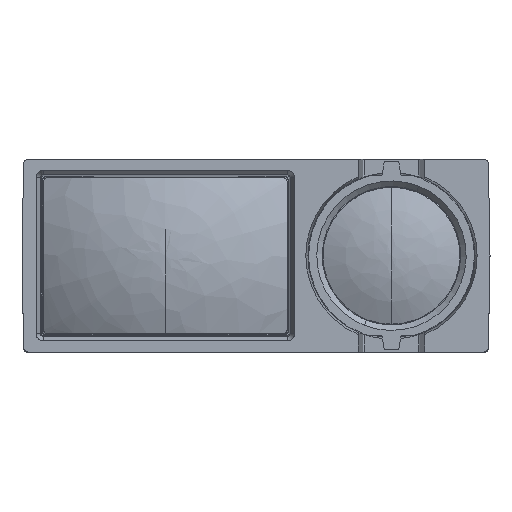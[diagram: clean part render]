
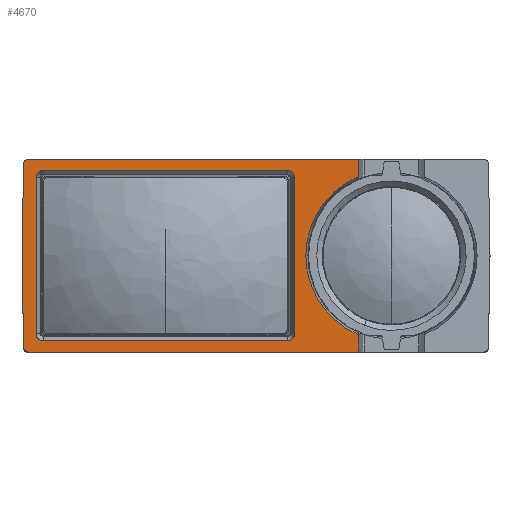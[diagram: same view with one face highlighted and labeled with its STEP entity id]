
A CAD part, top view. The second image highlights one B-rep face of the part: STEP entity #4670.
In plain terms, the highlighted planar face has unit normal (0, 0, 1).
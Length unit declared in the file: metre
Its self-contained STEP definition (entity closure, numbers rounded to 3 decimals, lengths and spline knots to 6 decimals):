
#117=DIRECTION('',(-1.,0.,0.));
#118=VECTOR('',#117,0.008916);
#119=CARTESIAN_POINT('',(0.004458,-0.003116,0.003));
#120=LINE('',#119,#118);
#125=DIRECTION('',(0.,-1.,0.));
#126=VECTOR('',#125,0.000643);
#127=CARTESIAN_POINT('',(0.007055,0.00353,0.003));
#128=LINE('',#127,#126);
#129=CARTESIAN_POINT('',(0.008265,0.,0.003));
#130=DIRECTION('',(0.,0.,1.));
#131=DIRECTION('',(-0.387,0.922,0.));
#132=AXIS2_PLACEMENT_3D('',#129,#130,#131);
#134=DIRECTION('',(0.,-1.,0.));
#135=VECTOR('',#134,0.000643);
#136=CARTESIAN_POINT('',(0.007055,-0.002887,0.003));
#137=LINE('',#136,#135);
#138=DIRECTION('',(-1.,0.,0.));
#139=VECTOR('',#138,0.012032);
#140=CARTESIAN_POINT('',(0.007055,-0.00353,0.003));
#141=LINE('',#140,#139);
#142=CARTESIAN_POINT('',(-0.004977,-0.00333,0.003));
#143=DIRECTION('',(0.,0.,-1.));
#144=DIRECTION('',(0.,-1.,0.));
#145=AXIS2_PLACEMENT_3D('',#142,#143,#144);
#147=DIRECTION('',(-0.017,1.,0.));
#148=VECTOR('',#147,0.003334);
#149=CARTESIAN_POINT('',(-0.005177,-0.003333,0.003));
#150=LINE('',#149,#148);
#151=DIRECTION('',(0.017,1.,0.));
#152=VECTOR('',#151,0.003334);
#153=CARTESIAN_POINT('',(-0.005235,0.,0.003));
#154=LINE('',#153,#152);
#155=CARTESIAN_POINT('',(-0.004977,0.00333,0.003));
#156=DIRECTION('',(0.,0.,-1.));
#157=DIRECTION('',(-1.,0.017,0.));
#158=AXIS2_PLACEMENT_3D('',#155,#156,#157);
#160=DIRECTION('',(1.,0.,0.));
#161=VECTOR('',#160,0.012032);
#162=CARTESIAN_POINT('',(-0.004977,0.00353,0.003));
#163=LINE('',#162,#161);
#164=CARTESIAN_POINT('',(0.004458,-0.003116,0.003));
#165=CARTESIAN_POINT('',(0.004484,-0.003117,0.003));
#166=CARTESIAN_POINT('',(0.004534,-0.00311,0.003));
#167=CARTESIAN_POINT('',(0.004613,-0.003071,0.003));
#168=CARTESIAN_POINT('',(0.004674,-0.003011,0.003));
#169=CARTESIAN_POINT('',(0.004715,-0.002932,0.003));
#170=CARTESIAN_POINT('',(0.004722,-0.00288,0.003));
#171=CARTESIAN_POINT('',(0.004721,-0.002853,0.003));
#173=DIRECTION('',(0.,1.,0.));
#174=VECTOR('',#173,0.005706);
#175=CARTESIAN_POINT('',(0.004721,-0.002853,0.003));
#176=LINE('',#175,#174);
#177=CARTESIAN_POINT('',(0.004721,0.002853,0.003));
#178=CARTESIAN_POINT('',(0.004722,0.002879,0.003));
#179=CARTESIAN_POINT('',(0.004715,0.002929,0.003));
#180=CARTESIAN_POINT('',(0.004676,0.003008,0.003));
#181=CARTESIAN_POINT('',(0.004616,0.003069,0.003));
#182=CARTESIAN_POINT('',(0.004537,0.00311,0.003));
#183=CARTESIAN_POINT('',(0.004485,0.003117,0.003));
#184=CARTESIAN_POINT('',(0.004458,0.003116,0.003));
#186=DIRECTION('',(-1.,0.,0.));
#187=VECTOR('',#186,0.008916);
#188=CARTESIAN_POINT('',(0.004458,0.003116,0.003));
#189=LINE('',#188,#187);
#190=CARTESIAN_POINT('',(-0.004458,0.003116,0.003));
#191=CARTESIAN_POINT('',(-0.004484,0.003117,0.003));
#192=CARTESIAN_POINT('',(-0.004534,0.00311,0.003));
#193=CARTESIAN_POINT('',(-0.004613,0.003071,0.003));
#194=CARTESIAN_POINT('',(-0.004674,0.003011,0.003));
#195=CARTESIAN_POINT('',(-0.004715,0.002932,0.003));
#196=CARTESIAN_POINT('',(-0.004722,0.00288,0.003));
#197=CARTESIAN_POINT('',(-0.004721,0.002853,0.003));
#199=DIRECTION('',(0.,-1.,0.));
#200=VECTOR('',#199,0.005706);
#201=CARTESIAN_POINT('',(-0.004721,0.002853,0.003));
#202=LINE('',#201,#200);
#203=CARTESIAN_POINT('',(-0.004721,-0.002853,0.003));
#204=CARTESIAN_POINT('',(-0.004722,-0.002879,0.003));
#205=CARTESIAN_POINT('',(-0.004715,-0.002929,0.003));
#206=CARTESIAN_POINT('',(-0.004676,-0.003008,0.003));
#207=CARTESIAN_POINT('',(-0.004616,-0.003069,0.003));
#208=CARTESIAN_POINT('',(-0.004537,-0.00311,0.003));
#209=CARTESIAN_POINT('',(-0.004485,-0.003117,0.003));
#210=CARTESIAN_POINT('',(-0.004458,-0.003116,0.003));
#3548=CARTESIAN_POINT('',(-0.004721,-0.002853,0.003));
#3549=VERTEX_POINT('',#3548);
#3550=CARTESIAN_POINT('',(-0.004458,-0.003116,0.003));
#3551=VERTEX_POINT('',#3550);
#3552=CARTESIAN_POINT('',(-0.004721,0.002853,0.003));
#3553=VERTEX_POINT('',#3552);
#3554=CARTESIAN_POINT('',(-0.004458,0.003116,0.003));
#3555=VERTEX_POINT('',#3554);
#3557=CARTESIAN_POINT('',(0.004458,0.003116,0.003));
#3559=VERTEX_POINT('',#3557);
#3560=CARTESIAN_POINT('',(0.004721,0.002853,0.003));
#3562=VERTEX_POINT('',#3560);
#3565=CARTESIAN_POINT('',(0.004721,-0.002853,0.003));
#3567=VERTEX_POINT('',#3565);
#3568=CARTESIAN_POINT('',(0.004458,-0.003116,0.003));
#3569=VERTEX_POINT('',#3568);
#3570=CARTESIAN_POINT('',(0.007055,0.00353,0.003));
#3571=CARTESIAN_POINT('',(0.007055,0.002887,0.003));
#3572=VERTEX_POINT('',#3570);
#3573=VERTEX_POINT('',#3571);
#3574=CARTESIAN_POINT('',(0.007055,-0.002887,0.003));
#3575=VERTEX_POINT('',#3574);
#3576=CARTESIAN_POINT('',(0.007055,-0.00353,0.003));
#3577=VERTEX_POINT('',#3576);
#3578=CARTESIAN_POINT('',(-0.004977,-0.00353,0.003));
#3579=VERTEX_POINT('',#3578);
#3580=CARTESIAN_POINT('',(-0.005177,-0.003333,0.003));
#3581=VERTEX_POINT('',#3580);
#3582=CARTESIAN_POINT('',(-0.005235,0.,0.003));
#3583=VERTEX_POINT('',#3582);
#3584=CARTESIAN_POINT('',(-0.005177,0.003333,0.003));
#3585=VERTEX_POINT('',#3584);
#3586=CARTESIAN_POINT('',(-0.004977,0.00353,0.003));
#3587=VERTEX_POINT('',#3586);
#4635=CARTESIAN_POINT('',(-0.001735,0.,0.003));
#4636=DIRECTION('',(0.,0.,1.));
#4637=DIRECTION('',(0.,-1.,0.));
#4638=AXIS2_PLACEMENT_3D('',#4635,#4636,#4637);
#4639=PLANE('',#4638);
#4641=ORIENTED_EDGE('',*,*,#4640,.T.);
#4643=ORIENTED_EDGE('',*,*,#4642,.T.);
#4645=ORIENTED_EDGE('',*,*,#4644,.T.);
#4647=ORIENTED_EDGE('',*,*,#4646,.T.);
#4649=ORIENTED_EDGE('',*,*,#4648,.T.);
#4651=ORIENTED_EDGE('',*,*,#4650,.T.);
#4653=ORIENTED_EDGE('',*,*,#4652,.T.);
#4655=ORIENTED_EDGE('',*,*,#4654,.T.);
#4657=ORIENTED_EDGE('',*,*,#4656,.T.);
#4658=EDGE_LOOP('',(#4641,#4643,#4645,#4647,#4649,#4651,#4653,#4655,#4657));
#4659=FACE_OUTER_BOUND('',#4658,.F.);
#4660=ORIENTED_EDGE('',*,*,#4627,.F.);
#4661=ORIENTED_EDGE('',*,*,#4617,.T.);
#4662=ORIENTED_EDGE('',*,*,#4574,.T.);
#4663=ORIENTED_EDGE('',*,*,#4559,.T.);
#4664=ORIENTED_EDGE('',*,*,#4516,.T.);
#4665=ORIENTED_EDGE('',*,*,#4501,.T.);
#4666=ORIENTED_EDGE('',*,*,#4459,.T.);
#4667=ORIENTED_EDGE('',*,*,#4445,.T.);
#4668=EDGE_LOOP('',(#4660,#4661,#4662,#4663,#4664,#4665,#4666,#4667));
#4669=FACE_BOUND('',#4668,.F.);
#133=CIRCLE('',#132,0.00313);
#146=CIRCLE('',#145,0.0002);
#159=CIRCLE('',#158,0.0002);
#172=B_SPLINE_CURVE_WITH_KNOTS('',3,(#164,#165,#166,#167,#168,#169,#170,#171),
.UNSPECIFIED.,.F.,.F.,(4,1,1,1,1,4),(0.,0.2,0.4,0.6,0.8,1.),
.UNSPECIFIED.);
#185=B_SPLINE_CURVE_WITH_KNOTS('',3,(#177,#178,#179,#180,#181,#182,#183,#184),
.UNSPECIFIED.,.F.,.F.,(4,1,1,1,1,4),(0.,0.2,0.4,0.6,0.8,1.),
.UNSPECIFIED.);
#198=B_SPLINE_CURVE_WITH_KNOTS('',3,(#190,#191,#192,#193,#194,#195,#196,#197),
.UNSPECIFIED.,.F.,.F.,(4,1,1,1,1,4),(0.,0.2,0.4,0.6,0.8,1.),
.UNSPECIFIED.);
#211=B_SPLINE_CURVE_WITH_KNOTS('',3,(#203,#204,#205,#206,#207,#208,#209,#210),
.UNSPECIFIED.,.F.,.F.,(4,1,1,1,1,4),(0.,0.2,0.4,0.6,0.8,1.),
.UNSPECIFIED.);
#4445=EDGE_CURVE('',#3549,#3551,#211,.T.);
#4459=EDGE_CURVE('',#3553,#3549,#202,.T.);
#4501=EDGE_CURVE('',#3555,#3553,#198,.T.);
#4516=EDGE_CURVE('',#3559,#3555,#189,.T.);
#4559=EDGE_CURVE('',#3562,#3559,#185,.T.);
#4574=EDGE_CURVE('',#3567,#3562,#176,.T.);
#4617=EDGE_CURVE('',#3569,#3567,#172,.T.);
#4627=EDGE_CURVE('',#3569,#3551,#120,.T.);
#4640=EDGE_CURVE('',#3572,#3573,#128,.T.);
#4642=EDGE_CURVE('',#3573,#3575,#133,.T.);
#4644=EDGE_CURVE('',#3575,#3577,#137,.T.);
#4646=EDGE_CURVE('',#3577,#3579,#141,.T.);
#4648=EDGE_CURVE('',#3579,#3581,#146,.T.);
#4650=EDGE_CURVE('',#3581,#3583,#150,.T.);
#4652=EDGE_CURVE('',#3583,#3585,#154,.T.);
#4654=EDGE_CURVE('',#3585,#3587,#159,.T.);
#4656=EDGE_CURVE('',#3587,#3572,#163,.T.);
#4670=ADVANCED_FACE('',(#4659,#4669),#4639,.T.);
